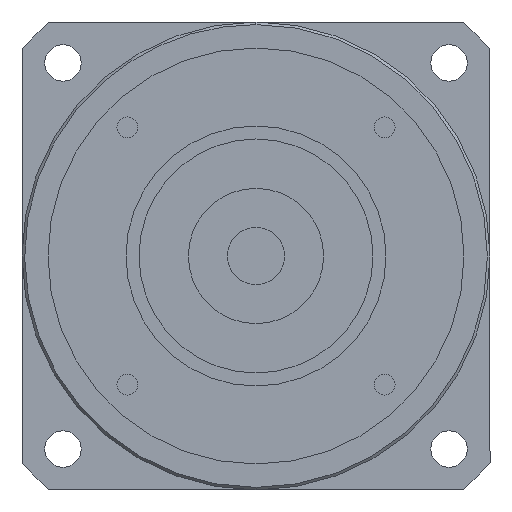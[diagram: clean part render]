
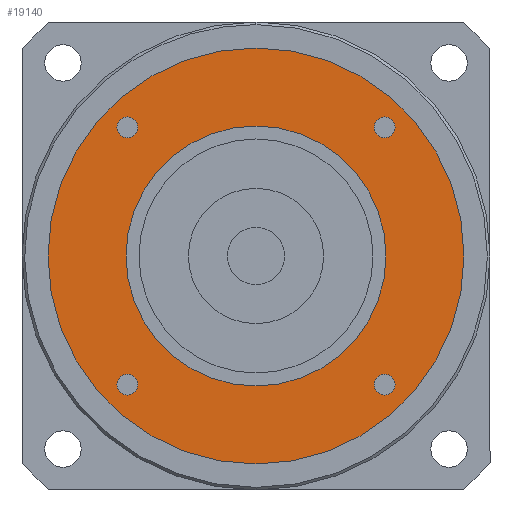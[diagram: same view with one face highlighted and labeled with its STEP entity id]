
A CAD part, left-side view. The second image highlights one B-rep face of the part: STEP entity #19140.
In plain terms, the highlighted planar face has unit normal (-1, 0, 0) as drawn and (0, 0, -1) by its records, which use the part's own axes.
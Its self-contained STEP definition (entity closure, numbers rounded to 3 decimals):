
#17810=CARTESIAN_POINT('',(40.,0.,-117.));
#17820=VERTEX_POINT('',#17810);
#17850=CARTESIAN_POINT('',(0.,0.,
-117.));
#17860=DIRECTION('',(0.,0.,1.));
#17870=DIRECTION('',(0.,-1.,0.));
#17880=AXIS2_PLACEMENT_3D('',#17850,#17860,#17870);
#17890=CIRCLE('',#17880,40.);
#17900=CARTESIAN_POINT('',(0.,-40.,-117.));
#17910=VERTEX_POINT('',#17900);
#17920=EDGE_CURVE('',#17910,#17820,#17890,.T.);
#17940=CARTESIAN_POINT('',(-40.,0.,-117.));
#17950=VERTEX_POINT('',#17940);
#17960=EDGE_CURVE('',#17950,#17910,#17890,.T.);
#18080=CARTESIAN_POINT('',(0.,0.,
-117.));
#18090=DIRECTION('',(0.,0.,1.));
#18100=DIRECTION('',(-1.,0.,0.));
#18110=AXIS2_PLACEMENT_3D('',#18080,#18090,#18100);
#18120=PLANE('',#18110);
#18130=CARTESIAN_POINT('',(24.749,-24.749,-117.));
#18140=DIRECTION('',(0.,0.,-1.));
#18150=DIRECTION('',(1.,0.,0.));
#18160=AXIS2_PLACEMENT_3D('',#18130,#18140,#18150);
#18170=CIRCLE('',#18160,2.);
#18180=CARTESIAN_POINT('',(26.749,-24.749,-117.));
#18190=VERTEX_POINT('',#18180);
#18200=CARTESIAN_POINT('',(24.749,-26.749,-117.));
#18210=VERTEX_POINT('',#18200);
#18220=EDGE_CURVE('',#18190,#18210,#18170,.T.);
#18230=ORIENTED_EDGE('',*,*,#18220,.F.);
#18240=CARTESIAN_POINT('',(24.749,-22.749,-117.));
#18250=VERTEX_POINT('',#18240);
#18260=EDGE_CURVE('',#18210,#18250,#18170,.T.);
#18270=ORIENTED_EDGE('',*,*,#18260,.F.);
#18280=EDGE_CURVE('',#18250,#18190,#18170,.T.);
#18290=ORIENTED_EDGE('',*,*,#18280,.F.);
#18300=EDGE_LOOP('',(#18290,#18270,#18230));
#18310=FACE_BOUND('',#18300,.T.);
#18320=CARTESIAN_POINT('',(24.749,24.749,-117.));
#18330=DIRECTION('',(0.,0.,-1.));
#18340=DIRECTION('',(0.,1.,0.));
#18350=AXIS2_PLACEMENT_3D('',#18320,#18330,#18340);
#18360=CIRCLE('',#18350,2.);
#18370=CARTESIAN_POINT('',(24.749,26.749,-117.));
#18380=VERTEX_POINT('',#18370);
#18390=CARTESIAN_POINT('',(26.749,24.749,-117.));
#18400=VERTEX_POINT('',#18390);
#18410=EDGE_CURVE('',#18380,#18400,#18360,.T.);
#18420=ORIENTED_EDGE('',*,*,#18410,.F.);
#18430=CARTESIAN_POINT('',(22.749,24.749,-117.));
#18440=VERTEX_POINT('',#18430);
#18450=EDGE_CURVE('',#18400,#18440,#18360,.T.);
#18460=ORIENTED_EDGE('',*,*,#18450,.F.);
#18470=EDGE_CURVE('',#18440,#18380,#18360,.T.);
#18480=ORIENTED_EDGE('',*,*,#18470,.F.);
#18490=EDGE_LOOP('',(#18480,#18460,#18420));
#18500=FACE_BOUND('',#18490,.T.);
#18510=CARTESIAN_POINT('',(-24.749,24.749,-117.));
#18520=DIRECTION('',(0.,0.,-1.));
#18530=DIRECTION('',(-1.,0.,0.));
#18540=AXIS2_PLACEMENT_3D('',#18510,#18520,#18530);
#18550=CIRCLE('',#18540,2.);
#18560=CARTESIAN_POINT('',(-26.749,24.749,-117.));
#18570=VERTEX_POINT('',#18560);
#18580=CARTESIAN_POINT('',(-24.749,26.749,-117.));
#18590=VERTEX_POINT('',#18580);
#18600=EDGE_CURVE('',#18570,#18590,#18550,.T.);
#18610=ORIENTED_EDGE('',*,*,#18600,.F.);
#18620=CARTESIAN_POINT('',(-24.749,22.749,-117.));
#18630=VERTEX_POINT('',#18620);
#18640=EDGE_CURVE('',#18590,#18630,#18550,.T.);
#18650=ORIENTED_EDGE('',*,*,#18640,.F.);
#18660=EDGE_CURVE('',#18630,#18570,#18550,.T.);
#18670=ORIENTED_EDGE('',*,*,#18660,.F.);
#18680=EDGE_LOOP('',(#18670,#18650,#18610));
#18690=FACE_BOUND('',#18680,.T.);
#18700=CARTESIAN_POINT('',(-24.749,-24.749,-117.));
#18710=DIRECTION('',(0.,0.,-1.));
#18720=DIRECTION('',(0.,-1.,0.));
#18730=AXIS2_PLACEMENT_3D('',#18700,#18710,#18720);
#18740=CIRCLE('',#18730,2.);
#18750=CARTESIAN_POINT('',(-24.749,-26.749,-117.));
#18760=VERTEX_POINT('',#18750);
#18770=CARTESIAN_POINT('',(-26.749,-24.749,-117.));
#18780=VERTEX_POINT('',#18770);
#18790=EDGE_CURVE('',#18760,#18780,#18740,.T.);
#18800=ORIENTED_EDGE('',*,*,#18790,.F.);
#18810=CARTESIAN_POINT('',(-22.749,-24.749,-117.));
#18820=VERTEX_POINT('',#18810);
#18830=EDGE_CURVE('',#18780,#18820,#18740,.T.);
#18840=ORIENTED_EDGE('',*,*,#18830,.F.);
#18850=EDGE_CURVE('',#18820,#18760,#18740,.T.);
#18860=ORIENTED_EDGE('',*,*,#18850,.F.);
#18870=EDGE_LOOP('',(#18860,#18840,#18800));
#18880=FACE_BOUND('',#18870,.T.);
#18890=ORIENTED_EDGE('',*,*,#17920,.F.);
#18900=EDGE_CURVE('',#17820,#17950,#17890,.T.);
#18910=ORIENTED_EDGE('',*,*,#18900,.F.);
#18920=ORIENTED_EDGE('',*,*,#17960,.F.);
#18930=EDGE_LOOP('',(#18920,#18910,#18890));
#18940=FACE_OUTER_BOUND('',#18930,.T.);
#18950=CARTESIAN_POINT('',(0.,0.,
-117.));
#18960=DIRECTION('',(0.,0.,1.));
#18970=DIRECTION('',(0.,-1.,0.));
#18980=AXIS2_PLACEMENT_3D('',#18950,#18960,#18970);
#18990=CIRCLE('',#18980,25.);
#19000=CARTESIAN_POINT('',(25.,0.,-117.));
#19010=VERTEX_POINT('',#19000);
#19020=CARTESIAN_POINT('',(-25.,0.,-117.));
#19030=VERTEX_POINT('',#19020);
#19040=EDGE_CURVE('',#19010,#19030,#18990,.T.);
#19050=ORIENTED_EDGE('',*,*,#19040,.T.);
#19060=CARTESIAN_POINT('',(0.,-25.,-117.));
#19070=VERTEX_POINT('',#19060);
#19080=EDGE_CURVE('',#19070,#19010,#18990,.T.);
#19090=ORIENTED_EDGE('',*,*,#19080,.T.);
#19100=EDGE_CURVE('',#19030,#19070,#18990,.T.);
#19110=ORIENTED_EDGE('',*,*,#19100,.T.);
#19120=EDGE_LOOP('',(#19110,#19090,#19050));
#19130=FACE_BOUND('',#19120,.T.);
#19140=ADVANCED_FACE('',(#18310,#18500,#18690,#18880,#18940,#19130),
#18120,.F.);
